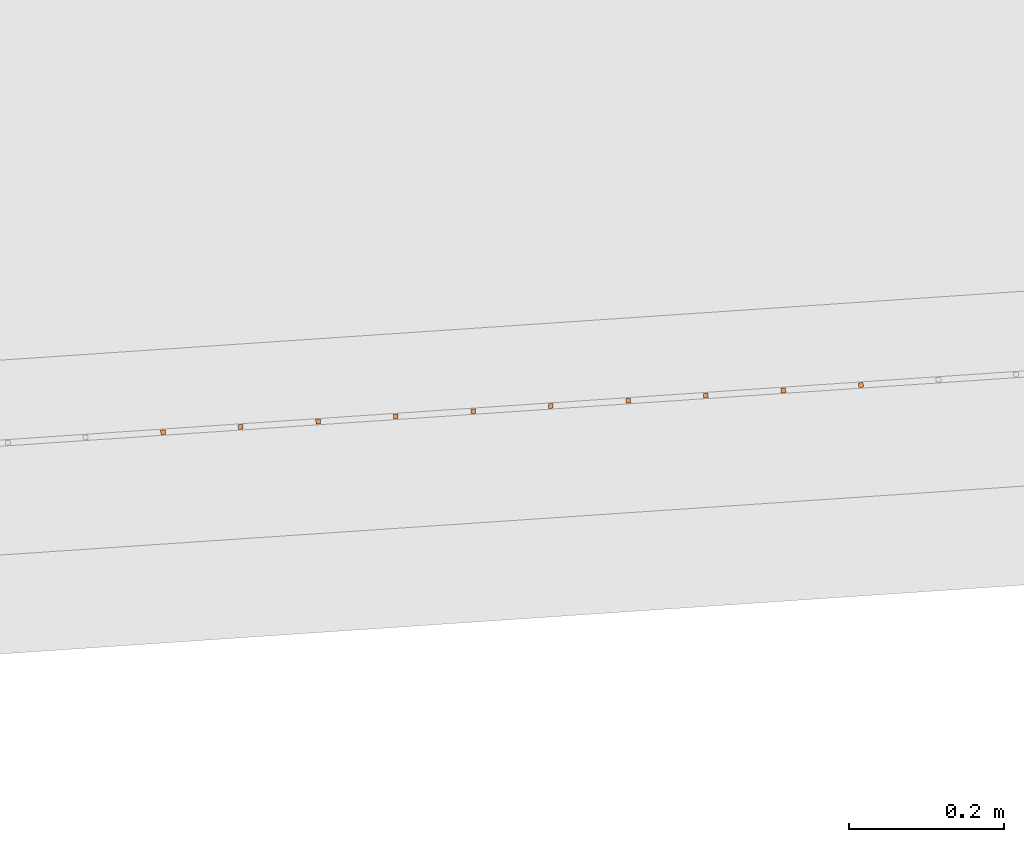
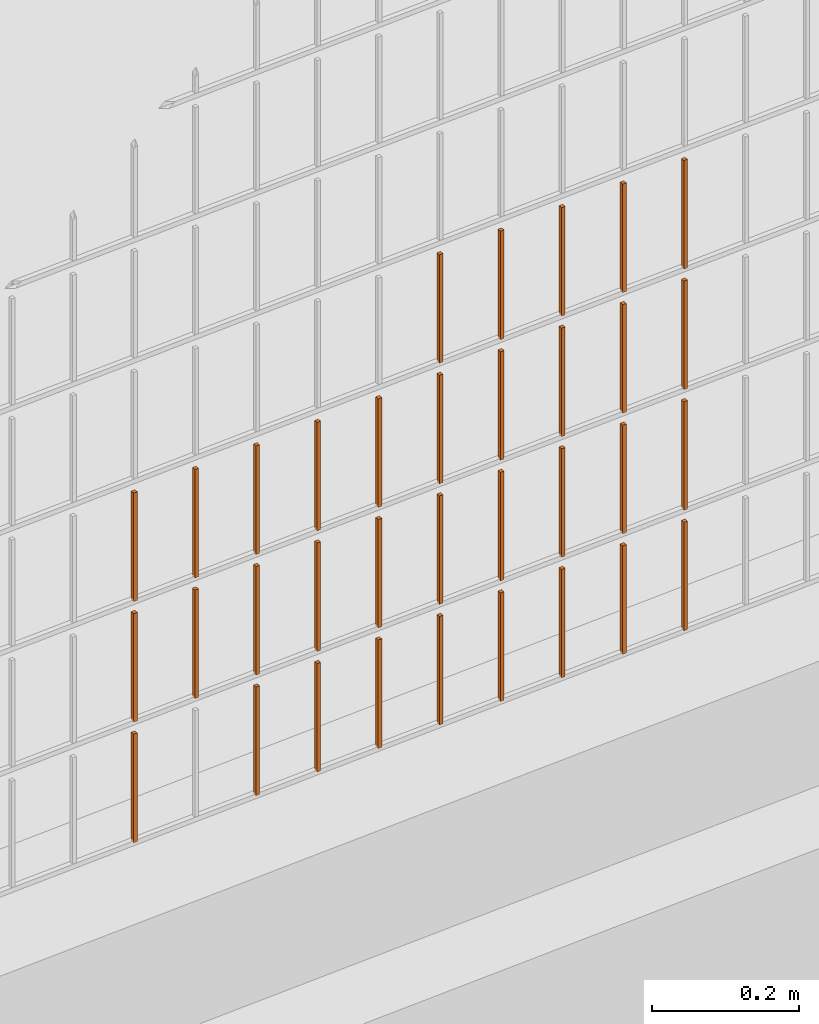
# One storey, part 316 of 1809: 34 proxies, 1 element without a shape of its own.
"""IFC2X3 building model written with IfcOpenShell, lengths in millimetres."""

import ifcopenshell
import ifcopenshell.guid

model = None  # the IFC model being written
_history = None  # IfcOwnerHistory: only IFC2X3 demands one
_inside = {}  # id of a spatial element -> (the spatial element, [elements in it])
_under = {}  # id of a project, library or spatial element -> (it, [spatial elements below it])
_declared = {}  # id of a project -> (the project, [libraries it declares])
_typed = {}  # id of a type object -> (the type object, [elements of that type])
_made_of = {}  # id of a material, layer set ... -> (it, [elements and type objects made of it])


def new_model(schema):
    """Start an empty IFC model of exactly this schema.

    Asked for "IFC4X3", IfcOpenShell would pick the latest addendum, in which some entities
    have other attributes; the version numbers below select the first issue.
    IFC2X3 requires an IfcOwnerHistory on every rooted entity: one is made here for all.
    """
    global model, _history
    if schema == "IFC4X3":
        model = ifcopenshell.file(schema_version=(4, 3, 0, 0))
    else:
        model = ifcopenshell.file(schema=schema)
    _inside.clear()
    _under.clear()
    _declared.clear()
    _typed.clear()
    _made_of.clear()
    _history = None
    if model.schema == "IFC2X3":
        org = make("IfcOrganization", Name="unknown")
        user = make(
            "IfcPersonAndOrganization",
            ThePerson=make("IfcPerson", FamilyName="unknown"),
            TheOrganization=org,
        )
        app = make(
            "IfcApplication",
            ApplicationDeveloper=org,
            Version="unknown",
            ApplicationFullName="unknown",
            ApplicationIdentifier="unknown",
        )
        _history = make(
            "IfcOwnerHistory",
            OwningUser=user,
            OwningApplication=app,
            ChangeAction="ADDED",
            CreationDate=0,
        )
    return model


def make(cls, **values):
    """One entity of the class cls with the attributes given. An attribute that is None is left unset."""
    return model.create_entity(
        cls, **{name: value for name, value in values.items() if value is not None}
    )


def entity(cls, *values):
    """Any entity or typed value of the class cls, its attributes in the order of the schema. None: left unset."""
    e = model.create_entity(cls)
    for i, value in enumerate(values):
        if value is not None:
            e[i] = value
    return e


def rooted(cls, **values):
    """An entity with a GlobalId (a new one), such as an element, a storey or a relation."""
    return make(cls, GlobalId=ifcopenshell.guid.new(), OwnerHistory=_history, **values)


def si_unit(unit_type, name, prefix=None):
    """IfcSIUnit, for example si_unit("LENGTHUNIT", "METRE", prefix="MILLI")."""
    return make("IfcSIUnit", UnitType=unit_type, Prefix=prefix, Name=name)


def converted_unit(unit_type, name, factor, base, dimensions=None, offset=None):
    """IfcConversionBasedUnit, such as the inch: factor (a typed value) times the base unit."""
    return make(
        "IfcConversionBasedUnit"
        if offset is None
        else "IfcConversionBasedUnitWithOffset",
        ConversionOffset=offset,
        Dimensions=None
        if dimensions is None
        else entity("IfcDimensionalExponents", *dimensions),
        UnitType=unit_type,
        Name=name,
        ConversionFactor=make(
            "IfcMeasureWithUnit", ValueComponent=factor, UnitComponent=base
        ),
    )


def derived_unit(unit_type, elements):
    """IfcDerivedUnit: a product of units, each with its exponent."""
    return make(
        "IfcDerivedUnit",
        Elements=[
            make("IfcDerivedUnitElement", Unit=unit, Exponent=power)
            for unit, power in elements
        ],
        UnitType=unit_type,
    )


def money_unit(currency):
    """IfcMonetaryUnit."""
    return make("IfcMonetaryUnit", Currency=currency)


def assignment(units):
    """IfcUnitAssignment: the units of a project."""
    return None if units is None else make("IfcUnitAssignment", Units=units)


def point(xyz):
    """IfcCartesianPoint."""
    return None if xyz is None else make("IfcCartesianPoint", Coordinates=xyz)


def direction(xyz):
    """IfcDirection."""
    return None if xyz is None else make("IfcDirection", DirectionRatios=xyz)


def frame(location, z_axis=None, x_axis=None):
    """IfcAxis2Placement3D, a coordinate frame: its origin and axes. An axis left out is left unset."""
    return make(
        "IfcAxis2Placement3D",
        Location=point(location),
        Axis=direction(z_axis),
        RefDirection=direction(x_axis),
    )


def origin_with_axes():
    """The frame at (0, 0, 0) with the z axis (0, 0, 1) and the x axis (1, 0, 0) written out."""
    return frame((0.0, 0.0, 0.0), z_axis=(0.0, 0.0, 1.0), x_axis=(1.0, 0.0, 0.0))


def place(relative_to, where):
    """IfcLocalPlacement: puts the frame where relative to a parent placement (None: the world)."""
    return make(
        "IfcLocalPlacement", PlacementRelTo=relative_to, RelativePlacement=where
    )


def context(
    kind, dimensions, precision=None, world=None, true_north=None, identifier=None
):
    """IfcGeometricRepresentationContext, for example the 3D "Model" context."""
    return make(
        "IfcGeometricRepresentationContext",
        ContextIdentifier=identifier,
        ContextType=kind,
        CoordinateSpaceDimension=dimensions,
        Precision=precision,
        WorldCoordinateSystem=world,
        TrueNorth=true_north,
    )


def subcontext(parent, identifier, kind, view, scale=None):
    """IfcGeometricRepresentationSubContext, for example "Body" below "Model"."""
    return make(
        "IfcGeometricRepresentationSubContext",
        ContextIdentifier=identifier,
        ContextType=kind,
        ParentContext=parent,
        TargetScale=scale,
        TargetView=view,
    )


def project(units=None, contexts=None):
    """IfcProject with its units and contexts."""
    return rooted(
        "IfcProject",
        Name="project",
        RepresentationContexts=contexts,
        UnitsInContext=assignment(units),
    )


def spatial(cls, under=None, at=None, **own):
    """A site, building, storey or space (cls), placed at a placement, below another one or the project."""
    s = rooted(cls, ObjectPlacement=at, **own)
    if under is not None:
        _under.setdefault(under.id(), (under, []))[1].append(s)
    return s


def faces_of(points, faces, orient=None, outer=None):
    """IfcFace entities. A face is a list of loops; a loop is a list of indices into points, from 0.

    orient and outer hold one flag for each loop. By default every Orientation is true, the
    first loop of a face is its IfcFaceOuterBound and the others are IfcFaceBound.
    """
    made = []
    for i, loops in enumerate(faces):
        bounds = []
        for j, loop in enumerate(loops):
            is_outer = j == 0 if outer is None else outer[i][j]
            bounds.append(
                make(
                    "IfcFaceOuterBound" if is_outer else "IfcFaceBound",
                    Bound=make("IfcPolyLoop", Polygon=[points[k] for k in loop]),
                    Orientation=True if orient is None else orient[i][j],
                )
            )
        made.append(make("IfcFace", Bounds=bounds))
    return made


def faceted_brep(points, faces, orient=None, outer=None, voids=None):
    """IfcFacetedBrep: a solid bounded by flat faces; with voids (closed shells), ...WithVoids."""
    shared = [point(p) for p in points]
    hull = make("IfcClosedShell", CfsFaces=faces_of(shared, faces, orient, outer))
    if voids is None:
        return make("IfcFacetedBrep", Outer=hull)
    return make(
        "IfcFacetedBrepWithVoids",
        Outer=hull,
        Voids=[
            make(cls, CfsFaces=faces_of(shared, fs, o, b)) for cls, fs, o, b in voids
        ],
    )


def shape(context_of_items, identifier, shape_type, items):
    """IfcShapeRepresentation: the items that make up one representation, for example the "Body"."""
    return make(
        "IfcShapeRepresentation",
        ContextOfItems=context_of_items,
        RepresentationIdentifier=identifier,
        RepresentationType=shape_type,
        Items=items,
    )


def source(mapping_origin, context_of_items, identifier, shape_type, items):
    """IfcRepresentationMap: a shape defined once, which mapped items show again and again."""
    return make(
        "IfcRepresentationMap",
        MappingOrigin=mapping_origin,
        MappedRepresentation=shape(context_of_items, identifier, shape_type, items),
    )


def transform(
    local_origin,
    x_axis=None,
    y_axis=None,
    z_axis=None,
    scale=None,
    scale2=None,
    scale3=None,
    uniform=True,
):
    """IfcCartesianTransformationOperator3D, or its non-uniform kind. x_axis, y_axis, z_axis: its Axis1, 2, 3."""
    if uniform:
        return make(
            "IfcCartesianTransformationOperator3D",
            Axis1=direction(x_axis),
            Axis2=direction(y_axis),
            LocalOrigin=point(local_origin),
            Scale=scale,
            Axis3=direction(z_axis),
        )
    return make(
        "IfcCartesianTransformationOperator3DnonUniform",
        Axis1=direction(x_axis),
        Axis2=direction(y_axis),
        LocalOrigin=point(local_origin),
        Scale=scale,
        Axis3=direction(z_axis),
        Scale2=scale2,
        Scale3=scale3,
    )


def mapped(mapping_source, mapping_target):
    """IfcMappedItem: shows the shape of a source again, moved by a transform."""
    return make(
        "IfcMappedItem", MappingSource=mapping_source, MappingTarget=mapping_target
    )


def material(Name=None, Category=None):
    """IfcMaterial."""
    return make("IfcMaterial", Name=Name, Category=Category)


def made_of(thing, what):
    """Note that an element or type object is made of a material, layer set ...; save() writes the relation."""
    if what is not None:
        _made_of.setdefault(what.id(), (what, []))[1].append(thing)
    return thing


def type_object(cls, material=None, **own):
    """A type object (cls), such as IfcWallType, which elements share."""
    return made_of(rooted(cls, **own), material)


def element(
    cls,
    number,
    at=None,
    inside=None,
    cuts=None,
    type_object=None,
    material=None,
    context=None,
    identifier="Body",
    shape_type=None,
    held_by="IfcProductDefinitionShape",
    body=None,
    shapes=None,
    **own,
):
    """One element of the class cls, such as IfcWall. Its Tag is "e" and its number.

    at: its placement. inside: the storey or other place that contains it. cuts: it is an
    opening in that element (IfcRelVoidsElement). A single representation is given by context,
    identifier, shape_type and body (its items); several are given by shapes. held_by: the class
    of the entity that holds the representations. save() writes the other relations.
    """
    e = rooted(cls, Tag="e%d" % number, ObjectPlacement=at, **own)
    if body is not None:
        shapes = [shape(context, identifier, shape_type, body)]
    if shapes is not None:
        e.Representation = make(held_by, Representations=shapes)
    if inside is not None:
        _inside.setdefault(inside.id(), (inside, []))[1].append(e)
    if cuts is not None:
        rooted(
            "IfcRelVoidsElement", RelatingBuildingElement=cuts, RelatedOpeningElement=e
        )
    if type_object is not None:
        _typed.setdefault(type_object.id(), (type_object, []))[1].append(e)
    return made_of(e, material)


def aggregate(whole, parts):
    """IfcRelAggregates: a whole, such as a stair, and the parts it consists of."""
    return rooted("IfcRelAggregates", RelatingObject=whole, RelatedObjects=parts)


def save(model, path):
    """Write the relations noted so far, then the file.

    IfcRelAggregates (storeys below a building ...), IfcRelContainedInSpatialStructure (elements
    in a storey), IfcRelDefinesByType, IfcRelAssociatesMaterial and IfcRelDeclares: one each for
    every whole, place, type object, material and project.
    """
    for whole, parts in _under.values():
        aggregate(whole, parts)
    for where, things in _inside.values():
        rooted(
            "IfcRelContainedInSpatialStructure",
            RelatedElements=things,
            RelatingStructure=where,
        )
    for kind, things in _typed.values():
        rooted("IfcRelDefinesByType", RelatedObjects=things, RelatingType=kind)
    for what, things in _made_of.values():
        rooted("IfcRelAssociatesMaterial", RelatedObjects=things, RelatingMaterial=what)
    for by, libraries in _declared.values():
        rooted("IfcRelDeclares", RelatingContext=by, RelatedDefinitions=libraries)
    model.write(path)


model = new_model("IFC2X3")

# Units and contexts
model_context = context("Model", 3, precision=0.01, world=origin_with_axes(), true_north=direction((0.0, 1.0)))
body_context = subcontext(model_context, "Body", "Model", "MODEL_VIEW")
ifc_project = project(units=[si_unit("LENGTHUNIT", "METRE", prefix="MILLI"), si_unit("AREAUNIT", "SQUARE_METRE"), si_unit("VOLUMEUNIT", "CUBIC_METRE"), converted_unit("PLANEANGLEUNIT", "DEGREE", entity("IfcPlaneAngleMeasure", 0.0174532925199), si_unit("PLANEANGLEUNIT", "RADIAN"), dimensions=[0, 0, 0, 0, 0, 0, 0]), si_unit("SOLIDANGLEUNIT", "STERADIAN"), money_unit("EUR"), converted_unit("TIMEUNIT", "Year", entity("IfcTimeMeasure", 31556926.0), si_unit("TIMEUNIT", "SECOND"), dimensions=[0, 0, 1, 0, 0, 0, 0]), si_unit("MASSUNIT", "GRAM", prefix="KILO"), si_unit("THERMODYNAMICTEMPERATUREUNIT", "DEGREE_CELSIUS"), si_unit("LUMINOUSINTENSITYUNIT", "LUMEN"), si_unit("ENERGYUNIT", "JOULE", prefix="MEGA"), derived_unit("THERMALCONDUCTANCEUNIT", [(si_unit("POWERUNIT", "WATT"), 1), (si_unit("LENGTHUNIT", "METRE"), -1), (si_unit("THERMODYNAMICTEMPERATUREUNIT", "KELVIN"), -1)]), derived_unit("SPECIFICHEATCAPACITYUNIT", [(si_unit("ENERGYUNIT", "JOULE"), 1), (si_unit("MASSUNIT", "GRAM", prefix="KILO"), -1), (si_unit("THERMODYNAMICTEMPERATUREUNIT", "KELVIN"), -1)]), derived_unit("MASSDENSITYUNIT", [(si_unit("MASSUNIT", "GRAM", prefix="KILO"), 1), (si_unit("VOLUMEUNIT", "CUBIC_METRE"), -1)])], contexts=[model_context])

# Site, building, storey
site_placement = place(None, origin_with_axes())
site = spatial("IfcSite", under=ifc_project, at=site_placement, Name="Politse- ja Piirivalveameti ning Päästeameti ühishoone", CompositionType="ELEMENT")
building_placement = place(site_placement, origin_with_axes())
building = spatial("IfcBuilding", under=site, at=building_placement, Name="Politse- ja Piirivalveameti ning Päästeameti ühishoone", CompositionType="ELEMENT")
storey_placement = place(building_placement, origin_with_axes())
storey = spatial("IfcBuildingStorey", under=building, at=storey_placement, Name="Esimene korrus", CompositionType="ELEMENT", Elevation=0.0)

# Proxies
building_element_proxy_type_1 = type_object("IfcBuildingElementProxyType", Name="Railing Type", PredefinedType="NOTDEFINED")
proxy_1_placement = place(storey_placement, frame((89252.001212, -29183.4766571, 203.661247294), z_axis=(0.0, 0.0, 1.0), x_axis=(1.0, 0.0, 0.0)))
proxy_1 = element("IfcBuildingElementProxy", 1, at=proxy_1_placement, inside=storey, type_object=building_element_proxy_type_1, Name="PIIRDEAED")
ifc_material = material(Name="ET-03_Raud")
building_element_proxy_type_2 = type_object("IfcBuildingElementProxyType", Name="IfcBuildingElementProxy", PredefinedType="NOTDEFINED")
shared_shape_1 = source(origin_with_axes(), body_context, "Body", "Brep", [
    faceted_brep([(3.0, 3.0, -0.000752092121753), (-3.0, 3.0, -0.000752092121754), (-3.0, 3.0, 179.99926046), (3.0, 3.0, 179.99926046), (3.0, -3.0, 0.000752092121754), (-3.0, -3.0, 0.000752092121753), (-3.0, -3.0, 180.000764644), (3.0, -3.0, 180.000764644)], [[[0, 1, 2, 3]], [[0, 4, 5, 1]], [[1, 5, 6, 2]], [[3, 2, 6, 7]], [[4, 0, 3, 7]], [[5, 4, 7, 6]]]),
])
proxy_2_placement = place(proxy_1_placement, frame((-38439.0987092, -19894.1908155, 217.57584601), z_axis=(0.0, 0.0, 1.0), x_axis=(1.0, 0.0, 0.0)))
proxy_2 = element("IfcBuildingElementProxy", 2, at=proxy_2_placement, type_object=building_element_proxy_type_2, material=ifc_material, Name="BALUSTER - 001", context=body_context, shape_type="MappedRepresentation", body=[
    mapped(shared_shape_1, transform((0.0, 0.0, 0.0), x_axis=(-0.0673926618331, 0.997726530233, 0.0), y_axis=(-0.997726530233, -0.0673926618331, 0.0), z_axis=(0.0, 0.0, 1.0))),
])
proxy_3_placement = place(proxy_1_placement, frame((-38439.0987092, -19894.1908155, 417.57584601), z_axis=(0.0, 0.0, 1.0), x_axis=(1.0, 0.0, 0.0)))
proxy_3 = element("IfcBuildingElementProxy", 3, at=proxy_3_placement, type_object=building_element_proxy_type_2, material=ifc_material, Name="BALUSTER - 001", context=body_context, shape_type="MappedRepresentation", body=[
    mapped(shared_shape_1, transform((0.0, 0.0, 0.0), x_axis=(-0.0673926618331, 0.997726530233, 0.0), y_axis=(-0.997726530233, -0.0673926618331, 0.0), z_axis=(0.0, 0.0, 1.0))),
])
shared_shape_2 = source(origin_with_axes(), body_context, "Body", "Brep", [
    faceted_brep([(3.0, 3.0, -0.000752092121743), (-3.0, 3.0, -0.000752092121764), (-3.0, 3.0, 179.99926046), (3.0, 3.0, 179.99926046), (3.0, -3.0, 0.000752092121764), (-3.0, -3.0, 0.000752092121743), (-3.0, -3.0, 180.000764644), (3.0, -3.0, 180.000764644)], [[[0, 1, 2, 3]], [[0, 4, 5, 1]], [[1, 5, 6, 2]], [[3, 2, 6, 7]], [[4, 0, 3, 7]], [[5, 4, 7, 6]]]),
])
proxy_4_placement = place(proxy_1_placement, frame((-38538.8713622, -19900.9300817, 217.550776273), z_axis=(0.0, 0.0, 1.0), x_axis=(1.0, 0.0, 0.0)))
proxy_4 = element("IfcBuildingElementProxy", 4, at=proxy_4_placement, type_object=building_element_proxy_type_2, material=ifc_material, Name="BALUSTER - 001", context=body_context, shape_type="MappedRepresentation", body=[
    mapped(shared_shape_2, transform((0.0, 0.0, 0.0), x_axis=(-0.0673926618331, 0.997726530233, 0.0), y_axis=(-0.997726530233, -0.0673926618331, 0.0), z_axis=(0.0, 0.0, 1.0))),
])
shared_shape_3 = source(origin_with_axes(), body_context, "Body", "Brep", [
    faceted_brep([(3.0, 3.0, -0.000752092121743), (-3.0, 3.0, -0.000752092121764), (-3.0, 3.0, 179.99926046), (3.0, 3.0, 179.99926046), (3.0, -3.0, 0.000752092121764), (-3.0, -3.0, 0.000752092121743), (-3.0, -3.0, 180.000764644), (3.0, -3.0, 180.000764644)], [[[0, 1, 2, 3]], [[0, 4, 5, 1]], [[1, 5, 6, 2]], [[3, 2, 6, 7]], [[4, 0, 3, 7]], [[5, 4, 7, 6]]]),
])
proxy_5_placement = place(proxy_1_placement, frame((-38339.3260561, -19887.4515493, 217.600915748), z_axis=(0.0, 0.0, 1.0), x_axis=(1.0, 0.0, 0.0)))
proxy_5 = element("IfcBuildingElementProxy", 5, at=proxy_5_placement, type_object=building_element_proxy_type_2, material=ifc_material, Name="BALUSTER - 001", context=body_context, shape_type="MappedRepresentation", body=[
    mapped(shared_shape_3, transform((0.0, 0.0, 0.0), x_axis=(-0.0673926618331, 0.997726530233, 0.0), y_axis=(-0.997726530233, -0.0673926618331, 0.0), z_axis=(0.0, 0.0, 1.0))),
])
proxy_6_placement = place(proxy_1_placement, frame((-38538.8713622, -19900.9300817, 417.550776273), z_axis=(0.0, 0.0, 1.0), x_axis=(1.0, 0.0, 0.0)))
proxy_6 = element("IfcBuildingElementProxy", 6, at=proxy_6_placement, type_object=building_element_proxy_type_2, material=ifc_material, Name="BALUSTER - 001", context=body_context, shape_type="MappedRepresentation", body=[
    mapped(shared_shape_3, transform((0.0, 0.0, 0.0), x_axis=(-0.0673926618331, 0.997726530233, 0.0), y_axis=(-0.997726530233, -0.0673926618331, 0.0), z_axis=(0.0, 0.0, 1.0))),
])
proxy_7_placement = place(proxy_1_placement, frame((-38339.3260561, -19887.4515493, 617.600915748), z_axis=(0.0, 0.0, 1.0), x_axis=(1.0, 0.0, 0.0)))
proxy_7 = element("IfcBuildingElementProxy", 7, at=proxy_7_placement, type_object=building_element_proxy_type_2, material=ifc_material, Name="BALUSTER - 001", context=body_context, shape_type="MappedRepresentation", body=[
    mapped(shared_shape_3, transform((0.0, 0.0, 0.0), x_axis=(-0.0673926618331, 0.997726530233, 0.0), y_axis=(-0.997726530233, -0.0673926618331, 0.0), z_axis=(0.0, 0.0, 1.0))),
])
proxy_8_placement = place(proxy_1_placement, frame((-38538.8713622, -19900.9300817, 617.550776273), z_axis=(0.0, 0.0, 1.0), x_axis=(1.0, 0.0, 0.0)))
proxy_8 = element("IfcBuildingElementProxy", 8, at=proxy_8_placement, type_object=building_element_proxy_type_2, material=ifc_material, Name="BALUSTER - 001", context=body_context, shape_type="MappedRepresentation", body=[
    mapped(shared_shape_3, transform((0.0, 0.0, 0.0), x_axis=(-0.0673926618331, 0.997726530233, 0.0), y_axis=(-0.997726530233, -0.0673926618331, 0.0), z_axis=(0.0, 0.0, 1.0))),
])
shared_shape_4 = source(origin_with_axes(), body_context, "Body", "Brep", [
    faceted_brep([(3.0, 3.0, -0.000752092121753), (-3.0, 3.0, -0.000752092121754), (-3.0, 3.0, 179.99926046), (3.0, 3.0, 179.99926046), (3.0, -3.0, 0.000752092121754), (-3.0, -3.0, 0.000752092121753), (-3.0, -3.0, 180.000764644), (3.0, -3.0, 180.000764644)], [[[0, 1, 2, 3]], [[0, 4, 5, 1]], [[1, 5, 6, 2]], [[3, 2, 6, 7]], [[4, 0, 3, 7]], [[5, 4, 7, 6]]]),
])
proxy_9_placement = place(proxy_1_placement, frame((-38439.0987092, -19894.1908155, 617.57584601), z_axis=(0.0, 0.0, 1.0), x_axis=(1.0, 0.0, 0.0)))
proxy_9 = element("IfcBuildingElementProxy", 9, at=proxy_9_placement, type_object=building_element_proxy_type_2, material=ifc_material, Name="BALUSTER - 001", context=body_context, shape_type="MappedRepresentation", body=[
    mapped(shared_shape_4, transform((0.0, 0.0, 0.0), x_axis=(-0.0673926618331, 0.997726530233, 0.0), y_axis=(-0.997726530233, -0.0673926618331, 0.0), z_axis=(0.0, 0.0, 1.0))),
])
shared_shape_5 = source(origin_with_axes(), body_context, "Body", "Brep", [
    faceted_brep([(3.0, 3.0, -0.000752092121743), (-3.0, 3.0, -0.000752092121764), (-3.0, 3.0, 179.99926046), (3.0, 3.0, 179.99926046), (3.0, -3.0, 0.000752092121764), (-3.0, -3.0, 0.000752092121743), (-3.0, -3.0, 180.000764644), (3.0, -3.0, 180.000764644)], [[[0, 1, 2, 3]], [[0, 4, 5, 1]], [[1, 5, 6, 2]], [[3, 2, 6, 7]], [[4, 0, 3, 7]], [[5, 4, 7, 6]]]),
])
proxy_10_placement = place(proxy_1_placement, frame((-38339.3260561, -19887.4515493, 417.600915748), z_axis=(0.0, 0.0, 1.0), x_axis=(1.0, 0.0, 0.0)))
proxy_10 = element("IfcBuildingElementProxy", 10, at=proxy_10_placement, type_object=building_element_proxy_type_2, material=ifc_material, Name="BALUSTER - 001", context=body_context, shape_type="MappedRepresentation", body=[
    mapped(shared_shape_5, transform((0.0, 0.0, 0.0), x_axis=(-0.0673926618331, 0.997726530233, 0.0), y_axis=(-0.997726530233, -0.0673926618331, 0.0), z_axis=(0.0, 0.0, 1.0))),
])
shared_shape_6 = source(origin_with_axes(), body_context, "Body", "Brep", [
    faceted_brep([(3.0, 3.0, -0.000752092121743), (-3.0, 3.0, -0.000752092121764), (-3.0, 3.0, 179.99926046), (3.0, 3.0, 179.99926046), (3.0, -3.0, 0.000752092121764), (-3.0, -3.0, 0.000752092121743), (-3.0, -3.0, 180.000764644), (3.0, -3.0, 180.000764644)], [[[0, 1, 2, 3]], [[0, 4, 5, 1]], [[1, 5, 6, 2]], [[3, 2, 6, 7]], [[4, 0, 3, 7]], [[5, 4, 7, 6]]]),
])
proxy_11_placement = place(proxy_1_placement, frame((-38538.8713622, -19900.9300817, 17.5507762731), z_axis=(0.0, 0.0, 1.0), x_axis=(1.0, 0.0, 0.0)))
proxy_11 = element("IfcBuildingElementProxy", 11, at=proxy_11_placement, type_object=building_element_proxy_type_2, material=ifc_material, Name="BALUSTER - 001", context=body_context, shape_type="MappedRepresentation", body=[
    mapped(shared_shape_6, transform((0.0, 0.0, 0.0), x_axis=(-0.0673926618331, 0.997726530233, 0.0), y_axis=(-0.997726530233, -0.0673926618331, 0.0), z_axis=(0.0, 0.0, 1.0))),
])
shared_shape_7 = source(origin_with_axes(), body_context, "Body", "Brep", [
    faceted_brep([(3.0, 3.0, -0.000752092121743), (-3.0, 3.0, -0.000752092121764), (-3.0, 3.0, 179.99926046), (3.0, 3.0, 179.99926046), (3.0, -3.0, 0.000752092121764), (-3.0, -3.0, 0.000752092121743), (-3.0, -3.0, 180.000764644), (3.0, -3.0, 180.000764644)], [[[0, 1, 2, 3]], [[0, 4, 5, 1]], [[1, 5, 6, 2]], [[3, 2, 6, 7]], [[4, 0, 3, 7]], [[5, 4, 7, 6]]]),
])
proxy_12_placement = place(proxy_1_placement, frame((-38339.3260561, -19887.4515493, 17.6009157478), z_axis=(0.0, 0.0, 1.0), x_axis=(1.0, 0.0, 0.0)))
proxy_12 = element("IfcBuildingElementProxy", 12, at=proxy_12_placement, type_object=building_element_proxy_type_2, material=ifc_material, Name="BALUSTER - 001", context=body_context, shape_type="MappedRepresentation", body=[
    mapped(shared_shape_7, transform((0.0, 0.0, 0.0), x_axis=(-0.0673926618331, 0.997726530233, 0.0), y_axis=(-0.997726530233, -0.0673926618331, 0.0), z_axis=(0.0, 0.0, 1.0))),
])
shared_shape_8 = source(origin_with_axes(), body_context, "Body", "Brep", [
    faceted_brep([(3.0, 3.0, -0.000752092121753), (-3.0, 3.0, -0.000752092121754), (-3.0, 3.0, 179.99926046), (3.0, 3.0, 179.99926046), (3.0, -3.0, 0.000752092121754), (-3.0, -3.0, 0.000752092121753), (-3.0, -3.0, 180.000764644), (3.0, -3.0, 180.000764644)], [[[0, 1, 2, 3]], [[0, 4, 5, 1]], [[1, 5, 6, 2]], [[3, 2, 6, 7]], [[4, 0, 3, 7]], [[5, 4, 7, 6]]]),
])
proxy_13_placement = place(proxy_1_placement, frame((-38439.0987092, -19894.1908155, 17.5758460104), z_axis=(0.0, 0.0, 1.0), x_axis=(1.0, 0.0, 0.0)))
proxy_13 = element("IfcBuildingElementProxy", 13, at=proxy_13_placement, type_object=building_element_proxy_type_2, material=ifc_material, Name="BALUSTER - 001", context=body_context, shape_type="MappedRepresentation", body=[
    mapped(shared_shape_8, transform((0.0, 0.0, 0.0), x_axis=(-0.0673926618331, 0.997726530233, 0.0), y_axis=(-0.997726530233, -0.0673926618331, 0.0), z_axis=(0.0, 0.0, 1.0))),
])
shared_shape_9 = source(origin_with_axes(), body_context, "Body", "Brep", [
    faceted_brep([(3.0, 3.0, -0.000752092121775), (-3.0, 3.0, -0.000752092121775), (-3.0, 3.0, 179.99926046), (3.0, 3.0, 179.99926046), (3.0, -3.0, 0.000752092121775), (-3.0, -3.0, 0.000752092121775), (-3.0, -3.0, 180.000764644), (3.0, -3.0, 180.000764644)], [[[0, 1, 2, 3]], [[0, 4, 5, 1]], [[1, 5, 6, 2]], [[3, 2, 6, 7]], [[4, 0, 3, 7]], [[5, 4, 7, 6]]]),
])
proxy_14_placement = place(proxy_1_placement, frame((-38838.1893213, -19921.1478802, 417.475567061), z_axis=(0.0, 0.0, 1.0), x_axis=(1.0, 0.0, 0.0)))
proxy_14 = element("IfcBuildingElementProxy", 14, at=proxy_14_placement, type_object=building_element_proxy_type_2, material=ifc_material, Name="BALUSTER - 001", context=body_context, shape_type="MappedRepresentation", body=[
    mapped(shared_shape_9, transform((0.0, 0.0, 0.0), x_axis=(-0.0673926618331, 0.997726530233, 0.0), y_axis=(-0.997726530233, -0.0673926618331, 0.0), z_axis=(0.0, 0.0, 1.0))),
])
shared_shape_10 = source(origin_with_axes(), body_context, "Body", "Brep", [
    faceted_brep([(3.0, 3.0, -0.000752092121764), (-3.0, 3.0, -0.000752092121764), (-3.0, 3.0, 179.99926046), (3.0, 3.0, 179.99926046), (3.0, -3.0, 0.000752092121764), (-3.0, -3.0, 0.000752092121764), (-3.0, -3.0, 180.000764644), (3.0, -3.0, 180.000764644)], [[[0, 1, 2, 3]], [[0, 4, 5, 1]], [[1, 5, 6, 2]], [[3, 2, 6, 7]], [[4, 0, 3, 7]], [[5, 4, 7, 6]]]),
])
proxy_15_placement = place(proxy_1_placement, frame((-38239.5534031, -19880.7122831, 17.6259854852), z_axis=(0.0, 0.0, 1.0), x_axis=(1.0, 0.0, 0.0)))
proxy_15 = element("IfcBuildingElementProxy", 15, at=proxy_15_placement, type_object=building_element_proxy_type_2, material=ifc_material, Name="BALUSTER - 001", context=body_context, shape_type="MappedRepresentation", body=[
    mapped(shared_shape_10, transform((0.0, 0.0, 0.0), x_axis=(-0.0673926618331, 0.997726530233, 0.0), y_axis=(-0.997726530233, -0.0673926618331, 0.0), z_axis=(0.0, 0.0, 1.0))),
])
shared_shape_11 = source(origin_with_axes(), body_context, "Body", "Brep", [
    faceted_brep([(3.0, 3.0, -0.000752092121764), (-3.0, 3.0, -0.000752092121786), (-3.0, 3.0, 179.99926046), (3.0, 3.0, 179.99926046), (3.0, -3.0, 0.000752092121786), (-3.0, -3.0, 0.000752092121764), (-3.0, -3.0, 180.000764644), (3.0, -3.0, 180.000764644)], [[[0, 1, 2, 3]], [[0, 4, 5, 1]], [[1, 5, 6, 2]], [[3, 2, 6, 7]], [[4, 0, 3, 7]], [[5, 4, 7, 6]]]),
])
proxy_16_placement = place(proxy_1_placement, frame((-38937.9619743, -19927.8871464, 17.4504973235), z_axis=(0.0, 0.0, 1.0), x_axis=(1.0, 0.0, 0.0)))
proxy_16 = element("IfcBuildingElementProxy", 16, at=proxy_16_placement, type_object=building_element_proxy_type_2, material=ifc_material, Name="BALUSTER - 001", context=body_context, shape_type="MappedRepresentation", body=[
    mapped(shared_shape_11, transform((0.0, 0.0, 0.0), x_axis=(-0.0673926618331, 0.997726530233, 0.0), y_axis=(-0.997726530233, -0.0673926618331, 0.0), z_axis=(0.0, 0.0, 1.0))),
])
shared_shape_12 = source(origin_with_axes(), body_context, "Body", "Brep", [
    faceted_brep([(3.0, 3.0, -0.000752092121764), (-3.0, 3.0, -0.000752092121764), (-3.0, 3.0, 179.99926046), (3.0, 3.0, 179.99926046), (3.0, -3.0, 0.000752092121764), (-3.0, -3.0, 0.000752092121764), (-3.0, -3.0, 180.000764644), (3.0, -3.0, 180.000764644)], [[[0, 1, 2, 3]], [[0, 4, 5, 1]], [[1, 5, 6, 2]], [[3, 2, 6, 7]], [[4, 0, 3, 7]], [[5, 4, 7, 6]]]),
])
proxy_17_placement = place(proxy_1_placement, frame((-38239.5534031, -19880.7122831, 217.625985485), z_axis=(0.0, 0.0, 1.0), x_axis=(1.0, 0.0, 0.0)))
proxy_17 = element("IfcBuildingElementProxy", 17, at=proxy_17_placement, type_object=building_element_proxy_type_2, material=ifc_material, Name="BALUSTER - 001", context=body_context, shape_type="MappedRepresentation", body=[
    mapped(shared_shape_12, transform((0.0, 0.0, 0.0), x_axis=(-0.0673926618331, 0.997726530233, 0.0), y_axis=(-0.997726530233, -0.0673926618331, 0.0), z_axis=(0.0, 0.0, 1.0))),
])
proxy_18_placement = place(proxy_1_placement, frame((-38239.5534031, -19880.7122831, 417.625985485), z_axis=(0.0, 0.0, 1.0), x_axis=(1.0, 0.0, 0.0)))
proxy_18 = element("IfcBuildingElementProxy", 18, at=proxy_18_placement, type_object=building_element_proxy_type_2, material=ifc_material, Name="BALUSTER - 001", context=body_context, shape_type="MappedRepresentation", body=[
    mapped(shared_shape_12, transform((0.0, 0.0, 0.0), x_axis=(-0.0673926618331, 0.997726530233, 0.0), y_axis=(-0.997726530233, -0.0673926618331, 0.0), z_axis=(0.0, 0.0, 1.0))),
])
shared_shape_13 = source(origin_with_axes(), body_context, "Body", "Brep", [
    faceted_brep([(3.0, 3.0, -0.000752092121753), (-3.0, 3.0, -0.000752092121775), (-3.0, 3.0, 179.99926046), (3.0, 3.0, 179.99926046), (3.0, -3.0, 0.000752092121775), (-3.0, -3.0, 0.000752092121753), (-3.0, -3.0, 180.000764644), (3.0, -3.0, 180.000764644)], [[[0, 1, 2, 3]], [[0, 4, 5, 1]], [[1, 5, 6, 2]], [[3, 2, 6, 7]], [[4, 0, 3, 7]], [[5, 4, 7, 6]]]),
])
proxy_19_placement = place(proxy_1_placement, frame((-39137.5072803, -19941.3656788, 417.400357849), z_axis=(0.0, 0.0, 1.0), x_axis=(1.0, 0.0, 0.0)))
proxy_19 = element("IfcBuildingElementProxy", 19, at=proxy_19_placement, type_object=building_element_proxy_type_2, material=ifc_material, Name="BALUSTER - 001", context=body_context, shape_type="MappedRepresentation", body=[
    mapped(shared_shape_13, transform((0.0, 0.0, 0.0), x_axis=(-0.0673926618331, 0.997726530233, 0.0), y_axis=(-0.997726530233, -0.0673926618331, 0.0), z_axis=(0.0, 0.0, 1.0))),
])
shared_shape_14 = source(origin_with_axes(), body_context, "Body", "Brep", [
    faceted_brep([(3.0, 3.0, -0.000752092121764), (-3.0, 3.0, -0.000752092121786), (-3.0, 3.0, 179.99926046), (3.0, 3.0, 179.99926046), (3.0, -3.0, 0.000752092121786), (-3.0, -3.0, 0.000752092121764), (-3.0, -3.0, 180.000764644), (3.0, -3.0, 180.000764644)], [[[0, 1, 2, 3]], [[0, 4, 5, 1]], [[1, 5, 6, 2]], [[3, 2, 6, 7]], [[4, 0, 3, 7]], [[5, 4, 7, 6]]]),
])
proxy_20_placement = place(proxy_1_placement, frame((-39037.7346273, -19934.6264126, 217.425427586), z_axis=(0.0, 0.0, 1.0), x_axis=(1.0, 0.0, 0.0)))
proxy_20 = element("IfcBuildingElementProxy", 20, at=proxy_20_placement, type_object=building_element_proxy_type_2, material=ifc_material, Name="BALUSTER - 001", context=body_context, shape_type="MappedRepresentation", body=[
    mapped(shared_shape_14, transform((0.0, 0.0, 0.0), x_axis=(-0.0673926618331, 0.997726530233, 0.0), y_axis=(-0.997726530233, -0.0673926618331, 0.0), z_axis=(0.0, 0.0, 1.0))),
])
shared_shape_15 = source(origin_with_axes(), body_context, "Body", "Brep", [
    faceted_brep([(3.0, 3.0, -0.000752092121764), (-3.0, 3.0, -0.000752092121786), (-3.0, 3.0, 179.99926046), (3.0, 3.0, 179.99926046), (3.0, -3.0, 0.000752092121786), (-3.0, -3.0, 0.000752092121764), (-3.0, -3.0, 180.000764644), (3.0, -3.0, 180.000764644)], [[[0, 1, 2, 3]], [[0, 4, 5, 1]], [[1, 5, 6, 2]], [[3, 2, 6, 7]], [[4, 0, 3, 7]], [[5, 4, 7, 6]]]),
])
proxy_21_placement = place(proxy_1_placement, frame((-38937.9619743, -19927.8871464, 217.450497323), z_axis=(0.0, 0.0, 1.0), x_axis=(1.0, 0.0, 0.0)))
proxy_21 = element("IfcBuildingElementProxy", 21, at=proxy_21_placement, type_object=building_element_proxy_type_2, material=ifc_material, Name="BALUSTER - 001", context=body_context, shape_type="MappedRepresentation", body=[
    mapped(shared_shape_15, transform((0.0, 0.0, 0.0), x_axis=(-0.0673926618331, 0.997726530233, 0.0), y_axis=(-0.997726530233, -0.0673926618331, 0.0), z_axis=(0.0, 0.0, 1.0))),
])
proxy_22_placement = place(proxy_1_placement, frame((-38937.9619743, -19927.8871464, 417.450497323), z_axis=(0.0, 0.0, 1.0), x_axis=(1.0, 0.0, 0.0)))
proxy_22 = element("IfcBuildingElementProxy", 22, at=proxy_22_placement, type_object=building_element_proxy_type_2, material=ifc_material, Name="BALUSTER - 001", context=body_context, shape_type="MappedRepresentation", body=[
    mapped(shared_shape_15, transform((0.0, 0.0, 0.0), x_axis=(-0.0673926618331, 0.997726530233, 0.0), y_axis=(-0.997726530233, -0.0673926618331, 0.0), z_axis=(0.0, 0.0, 1.0))),
])
shared_shape_16 = source(origin_with_axes(), body_context, "Body", "Brep", [
    faceted_brep([(3.0, 3.0, -0.000752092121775), (-3.0, 3.0, -0.000752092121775), (-3.0, 3.0, 179.99926046), (3.0, 3.0, 179.99926046), (3.0, -3.0, 0.000752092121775), (-3.0, -3.0, 0.000752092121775), (-3.0, -3.0, 180.000764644), (3.0, -3.0, 180.000764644)], [[[0, 1, 2, 3]], [[0, 4, 5, 1]], [[1, 5, 6, 2]], [[3, 2, 6, 7]], [[4, 0, 3, 7]], [[5, 4, 7, 6]]]),
])
proxy_23_placement = place(proxy_1_placement, frame((-38838.1893213, -19921.1478802, 217.475567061), z_axis=(0.0, 0.0, 1.0), x_axis=(1.0, 0.0, 0.0)))
proxy_23 = element("IfcBuildingElementProxy", 23, at=proxy_23_placement, type_object=building_element_proxy_type_2, material=ifc_material, Name="BALUSTER - 001", context=body_context, shape_type="MappedRepresentation", body=[
    mapped(shared_shape_16, transform((0.0, 0.0, 0.0), x_axis=(-0.0673926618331, 0.997726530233, 0.0), y_axis=(-0.997726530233, -0.0673926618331, 0.0), z_axis=(0.0, 0.0, 1.0))),
])
shared_shape_17 = source(origin_with_axes(), body_context, "Body", "Brep", [
    faceted_brep([(3.0, 3.0, -0.000752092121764), (-3.0, 3.0, -0.000752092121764), (-3.0, 3.0, 179.99926046), (3.0, 3.0, 179.99926046), (3.0, -3.0, 0.000752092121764), (-3.0, -3.0, 0.000752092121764), (-3.0, -3.0, 180.000764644), (3.0, -3.0, 180.000764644)], [[[0, 1, 2, 3]], [[0, 4, 5, 1]], [[1, 5, 6, 2]], [[3, 2, 6, 7]], [[4, 0, 3, 7]], [[5, 4, 7, 6]]]),
])
proxy_24_placement = place(proxy_1_placement, frame((-38239.5534031, -19880.7122831, 617.625985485), z_axis=(0.0, 0.0, 1.0), x_axis=(1.0, 0.0, 0.0)))
proxy_24 = element("IfcBuildingElementProxy", 24, at=proxy_24_placement, type_object=building_element_proxy_type_2, material=ifc_material, Name="BALUSTER - 001", context=body_context, shape_type="MappedRepresentation", body=[
    mapped(shared_shape_17, transform((0.0, 0.0, 0.0), x_axis=(-0.0673926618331, 0.997726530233, 0.0), y_axis=(-0.997726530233, -0.0673926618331, 0.0), z_axis=(0.0, 0.0, 1.0))),
])
shared_shape_18 = source(origin_with_axes(), body_context, "Body", "Brep", [
    faceted_brep([(3.0, 3.0, -0.000752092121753), (-3.0, 3.0, -0.000752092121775), (-3.0, 3.0, 179.99926046), (3.0, 3.0, 179.99926046), (3.0, -3.0, 0.000752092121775), (-3.0, -3.0, 0.000752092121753), (-3.0, -3.0, 180.000764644), (3.0, -3.0, 180.000764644)], [[[0, 1, 2, 3]], [[0, 4, 5, 1]], [[1, 5, 6, 2]], [[3, 2, 6, 7]], [[4, 0, 3, 7]], [[5, 4, 7, 6]]]),
])
proxy_25_placement = place(proxy_1_placement, frame((-39137.5072803, -19941.3656788, 17.4003578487), z_axis=(0.0, 0.0, 1.0), x_axis=(1.0, 0.0, 0.0)))
proxy_25 = element("IfcBuildingElementProxy", 25, at=proxy_25_placement, type_object=building_element_proxy_type_2, material=ifc_material, Name="BALUSTER - 001", context=body_context, shape_type="MappedRepresentation", body=[
    mapped(shared_shape_18, transform((0.0, 0.0, 0.0), x_axis=(-0.0673926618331, 0.997726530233, 0.0), y_axis=(-0.997726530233, -0.0673926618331, 0.0), z_axis=(0.0, 0.0, 1.0))),
])
shared_shape_19 = source(origin_with_axes(), body_context, "Body", "Brep", [
    faceted_brep([(3.0, 3.0, -0.000752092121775), (-3.0, 3.0, -0.000752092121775), (-3.0, 3.0, 179.99926046), (3.0, 3.0, 179.99926046), (3.0, -3.0, 0.000752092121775), (-3.0, -3.0, 0.000752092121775), (-3.0, -3.0, 180.000764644), (3.0, -3.0, 180.000764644)], [[[0, 1, 2, 3]], [[0, 4, 5, 1]], [[1, 5, 6, 2]], [[3, 2, 6, 7]], [[4, 0, 3, 7]], [[5, 4, 7, 6]]]),
])
proxy_26_placement = place(proxy_1_placement, frame((-38838.1893213, -19921.1478802, 17.4755670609), z_axis=(0.0, 0.0, 1.0), x_axis=(1.0, 0.0, 0.0)))
proxy_26 = element("IfcBuildingElementProxy", 26, at=proxy_26_placement, type_object=building_element_proxy_type_2, material=ifc_material, Name="BALUSTER - 001", context=body_context, shape_type="MappedRepresentation", body=[
    mapped(shared_shape_19, transform((0.0, 0.0, 0.0), x_axis=(-0.0673926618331, 0.997726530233, 0.0), y_axis=(-0.997726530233, -0.0673926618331, 0.0), z_axis=(0.0, 0.0, 1.0))),
])
shared_shape_20 = source(origin_with_axes(), body_context, "Body", "Brep", [
    faceted_brep([(3.0, 3.0, -0.000752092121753), (-3.0, 3.0, -0.000752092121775), (-3.0, 3.0, 179.99926046), (3.0, 3.0, 179.99926046), (3.0, -3.0, 0.000752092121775), (-3.0, -3.0, 0.000752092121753), (-3.0, -3.0, 180.000764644), (3.0, -3.0, 180.000764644)], [[[0, 1, 2, 3]], [[0, 4, 5, 1]], [[1, 5, 6, 2]], [[3, 2, 6, 7]], [[4, 0, 3, 7]], [[5, 4, 7, 6]]]),
])
proxy_27_placement = place(proxy_1_placement, frame((-39137.5072803, -19941.3656788, 217.400357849), z_axis=(0.0, 0.0, 1.0), x_axis=(1.0, 0.0, 0.0)))
proxy_27 = element("IfcBuildingElementProxy", 27, at=proxy_27_placement, type_object=building_element_proxy_type_2, material=ifc_material, Name="BALUSTER - 001", context=body_context, shape_type="MappedRepresentation", body=[
    mapped(shared_shape_20, transform((0.0, 0.0, 0.0), x_axis=(-0.0673926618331, 0.997726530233, 0.0), y_axis=(-0.997726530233, -0.0673926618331, 0.0), z_axis=(0.0, 0.0, 1.0))),
])
shared_shape_21 = source(origin_with_axes(), body_context, "Body", "Brep", [
    faceted_brep([(3.0, 3.0, -0.000752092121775), (-3.0, 3.0, -0.000752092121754), (-3.0, 3.0, 179.99926046), (3.0, 3.0, 179.99926046), (3.0, -3.0, 0.000752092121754), (-3.0, -3.0, 0.000752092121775), (-3.0, -3.0, 180.000764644), (3.0, -3.0, 180.000764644)], [[[0, 1, 2, 3]], [[0, 4, 5, 1]], [[1, 5, 6, 2]], [[3, 2, 6, 7]], [[4, 0, 3, 7]], [[5, 4, 7, 6]]]),
])
proxy_28_placement = place(proxy_1_placement, frame((-38738.4166682, -19914.408614, 417.500636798), z_axis=(0.0, 0.0, 1.0), x_axis=(1.0, 0.0, 0.0)))
proxy_28 = element("IfcBuildingElementProxy", 28, at=proxy_28_placement, type_object=building_element_proxy_type_2, material=ifc_material, Name="BALUSTER - 001", context=body_context, shape_type="MappedRepresentation", body=[
    mapped(shared_shape_21, transform((0.0, 0.0, 0.0), x_axis=(-0.0673926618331, 0.997726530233, 0.0), y_axis=(-0.997726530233, -0.0673926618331, 0.0), z_axis=(0.0, 0.0, 1.0))),
])
shared_shape_22 = source(origin_with_axes(), body_context, "Body", "Brep", [
    faceted_brep([(3.0, 3.0, -0.000752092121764), (-3.0, 3.0, -0.000752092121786), (-3.0, 3.0, 179.99926046), (3.0, 3.0, 179.99926046), (3.0, -3.0, 0.000752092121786), (-3.0, -3.0, 0.000752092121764), (-3.0, -3.0, 180.000764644), (3.0, -3.0, 180.000764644)], [[[0, 1, 2, 3]], [[0, 4, 5, 1]], [[1, 5, 6, 2]], [[3, 2, 6, 7]], [[4, 0, 3, 7]], [[5, 4, 7, 6]]]),
])
proxy_29_placement = place(proxy_1_placement, frame((-39037.7346273, -19934.6264126, 417.425427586), z_axis=(0.0, 0.0, 1.0), x_axis=(1.0, 0.0, 0.0)))
proxy_29 = element("IfcBuildingElementProxy", 29, at=proxy_29_placement, type_object=building_element_proxy_type_2, material=ifc_material, Name="BALUSTER - 001", context=body_context, shape_type="MappedRepresentation", body=[
    mapped(shared_shape_22, transform((0.0, 0.0, 0.0), x_axis=(-0.0673926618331, 0.997726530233, 0.0), y_axis=(-0.997726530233, -0.0673926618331, 0.0), z_axis=(0.0, 0.0, 1.0))),
])
shared_shape_23 = source(origin_with_axes(), body_context, "Body", "Brep", [
    faceted_brep([(3.0, 3.0, -0.000752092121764), (-3.0, 3.0, -0.000752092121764), (-3.0, 3.0, 179.99926046), (3.0, 3.0, 179.99926046), (3.0, -3.0, 0.000752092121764), (-3.0, -3.0, 0.000752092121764), (-3.0, -3.0, 180.000764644), (3.0, -3.0, 180.000764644)], [[[0, 1, 2, 3]], [[0, 4, 5, 1]], [[1, 5, 6, 2]], [[3, 2, 6, 7]], [[4, 0, 3, 7]], [[5, 4, 7, 6]]]),
])
proxy_30_placement = place(proxy_1_placement, frame((-38638.6440152, -19907.6693479, 17.5257065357), z_axis=(0.0, 0.0, 1.0), x_axis=(1.0, 0.0, 0.0)))
proxy_30 = element("IfcBuildingElementProxy", 30, at=proxy_30_placement, type_object=building_element_proxy_type_2, material=ifc_material, Name="BALUSTER - 001", context=body_context, shape_type="MappedRepresentation", body=[
    mapped(shared_shape_23, transform((0.0, 0.0, 0.0), x_axis=(-0.0673926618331, 0.997726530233, 0.0), y_axis=(-0.997726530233, -0.0673926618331, 0.0), z_axis=(0.0, 0.0, 1.0))),
])
proxy_31_placement = place(proxy_1_placement, frame((-38638.6440152, -19907.6693479, 217.525706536), z_axis=(0.0, 0.0, 1.0), x_axis=(1.0, 0.0, 0.0)))
proxy_31 = element("IfcBuildingElementProxy", 31, at=proxy_31_placement, type_object=building_element_proxy_type_2, material=ifc_material, Name="BALUSTER - 001", context=body_context, shape_type="MappedRepresentation", body=[
    mapped(shared_shape_23, transform((0.0, 0.0, 0.0), x_axis=(-0.0673926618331, 0.997726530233, 0.0), y_axis=(-0.997726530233, -0.0673926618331, 0.0), z_axis=(0.0, 0.0, 1.0))),
])
shared_shape_24 = source(origin_with_axes(), body_context, "Body", "Brep", [
    faceted_brep([(3.0, 3.0, -0.000752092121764), (-3.0, 3.0, -0.000752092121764), (-3.0, 3.0, 179.99926046), (3.0, 3.0, 179.99926046), (3.0, -3.0, 0.000752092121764), (-3.0, -3.0, 0.000752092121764), (-3.0, -3.0, 180.000764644), (3.0, -3.0, 180.000764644)], [[[0, 1, 2, 3]], [[0, 4, 5, 1]], [[1, 5, 6, 2]], [[3, 2, 6, 7]], [[4, 0, 3, 7]], [[5, 4, 7, 6]]]),
])
proxy_32_placement = place(proxy_1_placement, frame((-38638.6440152, -19907.6693479, 417.525706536), z_axis=(0.0, 0.0, 1.0), x_axis=(1.0, 0.0, 0.0)))
proxy_32 = element("IfcBuildingElementProxy", 32, at=proxy_32_placement, type_object=building_element_proxy_type_2, material=ifc_material, Name="BALUSTER - 001", context=body_context, shape_type="MappedRepresentation", body=[
    mapped(shared_shape_24, transform((0.0, 0.0, 0.0), x_axis=(-0.0673926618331, 0.997726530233, 0.0), y_axis=(-0.997726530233, -0.0673926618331, 0.0), z_axis=(0.0, 0.0, 1.0))),
])
shared_shape_25 = source(origin_with_axes(), body_context, "Body", "Brep", [
    faceted_brep([(3.0, 3.0, -0.000752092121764), (-3.0, 3.0, -0.000752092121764), (-3.0, 3.0, 179.99926046), (3.0, 3.0, 179.99926046), (3.0, -3.0, 0.000752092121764), (-3.0, -3.0, 0.000752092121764), (-3.0, -3.0, 180.000764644), (3.0, -3.0, 180.000764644)], [[[0, 1, 2, 3]], [[0, 4, 5, 1]], [[1, 5, 6, 2]], [[3, 2, 6, 7]], [[4, 0, 3, 7]], [[5, 4, 7, 6]]]),
])
proxy_33_placement = place(proxy_1_placement, frame((-38638.6440152, -19907.6693479, 617.525706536), z_axis=(0.0, 0.0, 1.0), x_axis=(1.0, 0.0, 0.0)))
proxy_33 = element("IfcBuildingElementProxy", 33, at=proxy_33_placement, type_object=building_element_proxy_type_2, material=ifc_material, Name="BALUSTER - 001", context=body_context, shape_type="MappedRepresentation", body=[
    mapped(shared_shape_25, transform((0.0, 0.0, 0.0), x_axis=(-0.0673926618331, 0.997726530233, 0.0), y_axis=(-0.997726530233, -0.0673926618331, 0.0), z_axis=(0.0, 0.0, 1.0))),
])
shared_shape_26 = source(origin_with_axes(), body_context, "Body", "Brep", [
    faceted_brep([(3.0, 3.0, -0.000752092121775), (-3.0, 3.0, -0.000752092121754), (-3.0, 3.0, 179.99926046), (3.0, 3.0, 179.99926046), (3.0, -3.0, 0.000752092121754), (-3.0, -3.0, 0.000752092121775), (-3.0, -3.0, 180.000764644), (3.0, -3.0, 180.000764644)], [[[0, 1, 2, 3]], [[0, 4, 5, 1]], [[1, 5, 6, 2]], [[3, 2, 6, 7]], [[4, 0, 3, 7]], [[5, 4, 7, 6]]]),
])
proxy_34_placement = place(proxy_1_placement, frame((-38738.4166682, -19914.408614, 17.5006367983), z_axis=(0.0, 0.0, 1.0), x_axis=(1.0, 0.0, 0.0)))
proxy_34 = element("IfcBuildingElementProxy", 34, at=proxy_34_placement, type_object=building_element_proxy_type_2, material=ifc_material, Name="BALUSTER - 001", context=body_context, shape_type="MappedRepresentation", body=[
    mapped(shared_shape_26, transform((0.0, 0.0, 0.0), x_axis=(-0.0673926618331, 0.997726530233, 0.0), y_axis=(-0.997726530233, -0.0673926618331, 0.0), z_axis=(0.0, 0.0, 1.0))),
])
proxy_35_placement = place(proxy_1_placement, frame((-38738.4166682, -19914.408614, 217.500636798), z_axis=(0.0, 0.0, 1.0), x_axis=(1.0, 0.0, 0.0)))
proxy_35 = element("IfcBuildingElementProxy", 35, at=proxy_35_placement, type_object=building_element_proxy_type_2, material=ifc_material, Name="BALUSTER - 001", context=body_context, shape_type="MappedRepresentation", body=[
    mapped(shared_shape_26, transform((0.0, 0.0, 0.0), x_axis=(-0.0673926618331, 0.997726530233, 0.0), y_axis=(-0.997726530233, -0.0673926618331, 0.0), z_axis=(0.0, 0.0, 1.0))),
])
aggregate(proxy_1, [proxy_15, proxy_12, proxy_13, proxy_11, proxy_30, proxy_34, proxy_26, proxy_16, proxy_25, proxy_17, proxy_5, proxy_2, proxy_4, proxy_31, proxy_35, proxy_23, proxy_21, proxy_20, proxy_27, proxy_18, proxy_10, proxy_3, proxy_6, proxy_32, proxy_28, proxy_14, proxy_22, proxy_29, proxy_19, proxy_24, proxy_7, proxy_9, proxy_8, proxy_33])

save(model, "model.ifc")
